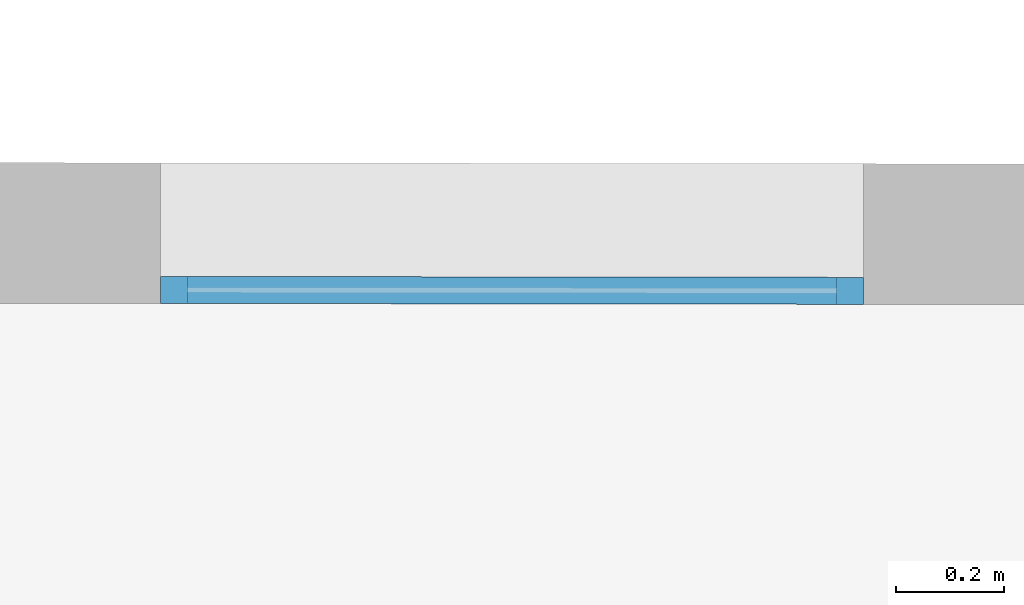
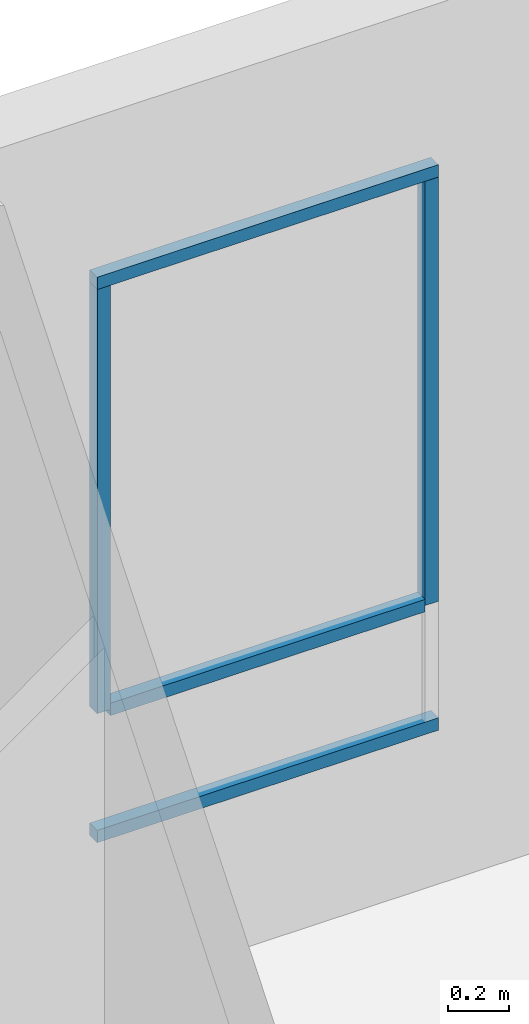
# One storey, part 18 of 101: 5 members, 1 element without a shape of its own.
"""IFC2X3 building model written with IfcOpenShell, lengths in metres."""

from ifc_helpers import new_model, entity, si_unit, converted_unit, derived_unit, direction, frame, origin, origin_2d_with_axis, place, context, subcontext, project, spatial, rectangle, extrude, source, transform, mapped, material, type_object, type_shapes, element, aggregate, save


model = new_model("IFC2X3")

# Units and contexts
model_context = context("Model", 3, precision=1e-05, world=origin(), true_north=direction((6.123233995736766e-17, 1.0)))
body_context = subcontext(model_context, "Body", "Model", "MODEL_VIEW")
ifc_project = project(units=[si_unit("LENGTHUNIT", "METRE"), si_unit("AREAUNIT", "SQUARE_METRE"), converted_unit("PLANEANGLEUNIT", "DEGREE", entity("IfcPlaneAngleMeasure", 0.017453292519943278), si_unit("PLANEANGLEUNIT", "RADIAN"), dimensions=[0, 0, 0, 0, 0, 0, 0]), derived_unit("THERMALTRANSMITTANCEUNIT", [(si_unit("MASSUNIT", "GRAM", prefix="KILO"), 1), (si_unit("THERMODYNAMICTEMPERATUREUNIT", "KELVIN"), -1), (si_unit("TIMEUNIT", "SECOND"), -3)])], contexts=[model_context])

# Site, building, storey
site_placement = place(None, frame((1253.6752467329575, 2072.143113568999, 91.49999999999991), z_axis=(0.0, 0.0, 1.0), x_axis=(0.7237211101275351, 0.6900925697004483, 0.0)))
site = spatial("IfcSite", under=ifc_project, at=site_placement, Name="Surface", CompositionType="ELEMENT")
building_placement = place(site_placement, origin())
building = spatial("IfcBuilding", under=site, at=building_placement, CompositionType="ELEMENT")
storey_placement = place(building_placement, origin())
storey = spatial("IfcBuildingStorey", under=building, at=storey_placement, Name="0- Rdc", CompositionType="ELEMENT", Elevation=-5.764692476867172e-13)

# Curtain wall, members
curtain_wall_type = type_object("IfcCurtainWallType", Name="Mur-rideau:Menuiserie Ext 1F+1OB VERTIC", PredefinedType="NOTDEFINED")
curtain_wall_placement = place(storey_placement, origin())
curtain_wall = element("IfcCurtainWall", 1, at=curtain_wall_placement, inside=storey, type_object=curtain_wall_type, Name="Mur-rideau:Menuiserie Ext 1F+1OB VERTIC", ObjectType="Mur-rideau:Menuiserie Ext 1F+1OB VERTIC")
ifc_material = material(Name="OMD_Aluminium Men Ext")
member_type_1 = type_object("IfcMemberType", Name="Meneau rectangulaire:50x50", PredefinedType="MULLION", material=ifc_material)
shared_shape_1 = source(origin(), body_context, "Body", "SweptSolid", [
    extrude(rectangle(XDim=0.05, YDim=0.05, at=origin_2d_with_axis()), frame((-0.025, 0.0, -1.2996959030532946), z_axis=(0.0, 0.0, 1.0), x_axis=(-1.0, 0.0, 0.0)), (0.0, 0.0, 1.0), 1.299695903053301),
])
type_shapes(member_type_1, [shared_shape_1])
member_1_placement = place(curtain_wall_placement, frame((170.59931102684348, 23.1730920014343, 2.8999999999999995), z_axis=(-0.7228702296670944, 0.6909838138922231, 0.0), x_axis=(0.0, 0.0, 1.0)))
member_1 = element("IfcMember", 2, at=member_1_placement, type_object=member_type_1, material=ifc_material, Name="Meneau rectangulaire:50x50", ObjectType="Meneau rectangulaire:50x50", context=body_context, shape_type="MappedRepresentation", body=[
    mapped(shared_shape_1, transform((0.0, 0.0, 0.0), scale=1.0)),
])
member_type_2 = type_object("IfcMemberType", Name="Meneau rectangulaire:50x50", PredefinedType="MULLION", material=ifc_material)
shared_shape_2 = source(origin(), body_context, "Body", "SweptSolid", [
    extrude(rectangle(XDim=0.05, YDim=0.05, at=origin_2d_with_axis()), frame((-0.025, 0.0, -1.299695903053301), z_axis=(0.0, 0.0, 1.0), x_axis=(-1.0, 0.0, 0.0)), (0.0, 0.0, 1.0), 1.299695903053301),
])
type_shapes(member_type_2, [shared_shape_2])
member_2_placement = place(curtain_wall_placement, frame((171.538822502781, 22.275023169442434, 0.62), z_axis=(0.7228702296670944, -0.6909838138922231, 0.0), x_axis=(0.0, 0.0, -1.0)))
member_2 = element("IfcMember", 3, at=member_2_placement, type_object=member_type_2, material=ifc_material, Name="Meneau rectangulaire:50x50", ObjectType="Meneau rectangulaire:50x50", context=body_context, shape_type="MappedRepresentation", body=[
    mapped(shared_shape_2, transform((0.0, 0.0, 0.0), scale=1.0)),
])
member_type_3 = type_object("IfcMemberType", Name="Meneau rectangulaire:50x50", PredefinedType="MULLION", material=ifc_material)
shared_shape_3 = source(origin(), body_context, "Body", "SweptSolid", [
    extrude(rectangle(XDim=0.05, YDim=0.05000000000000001, at=origin_2d_with_axis()), frame((-0.025, 0.0, -1.7099999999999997), z_axis=(0.0, 0.0, 1.0), x_axis=(-1.0, 0.0, 0.0)), (0.0, 0.0, 1.0), 1.7099999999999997),
])
type_shapes(member_type_3, [shared_shape_3])
member_3_placement = place(curtain_wall_placement, frame((171.538822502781, 22.275023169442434, 2.8499999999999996), z_axis=(0.0, 0.0, 1.0), x_axis=(0.7228702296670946, -0.6909838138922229, 0.0)))
member_3 = element("IfcMember", 4, at=member_3_placement, type_object=member_type_3, material=ifc_material, Name="Meneau rectangulaire:50x50", ObjectType="Meneau rectangulaire:50x50", context=body_context, shape_type="MappedRepresentation", body=[
    mapped(shared_shape_3, transform((0.0, 0.0, 0.0), scale=1.0)),
])
member_type_4 = type_object("IfcMemberType", Name="Meneau rectangulaire:50x50", PredefinedType="MULLION", material=ifc_material)
shared_shape_4 = source(origin(), body_context, "Body", "SweptSolid", [
    extrude(rectangle(XDim=0.05, YDim=0.049999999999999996, at=origin_2d_with_axis()), frame((-0.025, 0.0, -1.7099999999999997), z_axis=(0.0, 0.0, 1.0), x_axis=(-1.0, 0.0, 0.0)), (0.0, 0.0, 1.0), 1.7099999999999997),
])
type_shapes(member_type_4, [shared_shape_4])
member_4_placement = place(curtain_wall_placement, frame((170.59931102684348, 23.173092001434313, 1.14), z_axis=(0.0, 0.0, -1.0), x_axis=(-0.7228702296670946, 0.6909838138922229, 0.0)))
member_4 = element("IfcMember", 5, at=member_4_placement, type_object=member_type_4, material=ifc_material, Name="Meneau rectangulaire:50x50", ObjectType="Meneau rectangulaire:50x50", context=body_context, shape_type="MappedRepresentation", body=[
    mapped(shared_shape_4, transform((0.0, 0.0, 0.0), scale=1.0)),
])
member_type_5 = type_object("IfcMemberType", Name="Meneau rectangulaire:50x50", PredefinedType="MULLION", material=ifc_material)
shared_shape_5 = source(origin(), body_context, "Body", "SweptSolid", [
    extrude(rectangle(XDim=0.05, YDim=0.05, at=origin_2d_with_axis()), frame((0.0, 0.0, -1.1996959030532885), z_axis=(0.0, 0.0, 1.0), x_axis=(-1.0, 0.0, 0.0)), (0.0, 0.0, 1.0), 1.199695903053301),
])
type_shapes(member_type_5, [shared_shape_5])
member_5_placement = place(curtain_wall_placement, frame((170.63545453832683, 23.13854281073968, 1.14), z_axis=(-0.7228702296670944, 0.6909838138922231, 0.0), x_axis=(0.0, 0.0, 1.0)))
member_5 = element("IfcMember", 6, at=member_5_placement, type_object=member_type_5, material=ifc_material, Name="Meneau rectangulaire:50x50", ObjectType="Meneau rectangulaire:50x50", context=body_context, shape_type="MappedRepresentation", body=[
    mapped(shared_shape_5, transform((0.0, 0.0, 0.0), scale=1.0)),
])
aggregate(curtain_wall, [member_1, member_2, member_3, member_4, member_5])

save(model, "model.ifc")
